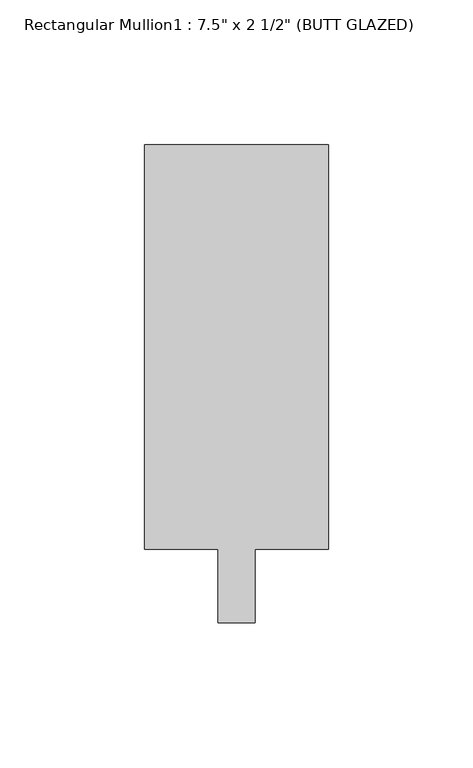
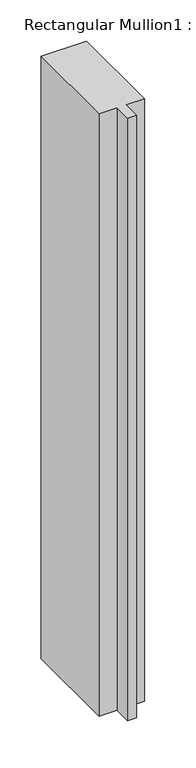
"""IFC4 building model written with IfcOpenShell, lengths in millimetres: member geometry."""

from ifc_helpers import new_model, si_unit, frame, origin, place, context, project, spatial, polyline, outline, extrude, source, transform, mapped, element, save


def member_a3a76167(model_context):
    return source(origin(), model_context, "Body", "SweptSolid", [
        extrude(outline(polyline([(0.0, 165.1), (0.0, 25.4), (-25.4, 25.4), (-25.4, 0.0), (-38.1, 0.0), (-38.1, 25.4), (-63.5, 25.4), (-63.5, 165.1), (0.0, 165.1)])), frame((0.0, 0.0, -889.0), z_axis=(0.0, 0.0, 1.0), x_axis=(1.0, 0.0, 0.0)), (0.0, 0.0, 1.0), 889.0),
    ])


if __name__ == "__main__":
    model = new_model("IFC4")
    model_context = context("Model", 3, world=origin())
    ifc_project = project(units=[si_unit("LENGTHUNIT", "METRE", prefix="MILLI")], contexts=[model_context])
    site = spatial("IfcSite", under=ifc_project)
    building = spatial("IfcBuilding", under=site)
    placement = place(None, origin())
    member_shape = member_a3a76167(model_context)
    element("IfcMember", 1, ObjectType="Rectangular Mullion1 : 7.5\" x 2 1/2\" (BUTT GLAZED)", at=placement, inside=building, context=model_context, shape_type="MappedRepresentation", body=[
        mapped(member_shape, transform((0.0, 0.0, 0.0), x_axis=(1.0, 0.0, 0.0), y_axis=(0.0, 1.0, 0.0), z_axis=(0.0, 0.0, 1.0))),
    ])
    save(model, "model.ifc")
